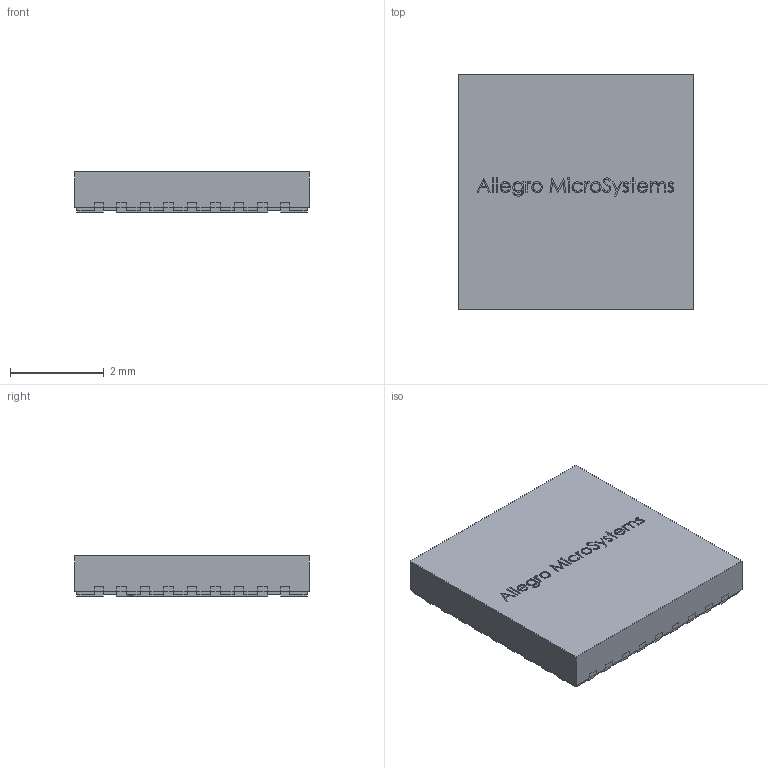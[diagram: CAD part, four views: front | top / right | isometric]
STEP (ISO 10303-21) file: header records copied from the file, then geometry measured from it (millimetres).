
FILE_DESCRIPTION (( 'STEP AP214' ), '1' );
FILE_NAME ('5X5QFN-WettableFlank_Allegro_3DCustDwg.STEP', '2016-06-06T20:53:24', ( '' ), ( '' ), 'SwSTEP 2.0', 'SolidWorks 2014', '' );
FILE_SCHEMA (( 'AUTOMOTIVE_DESIGN' ));
Length unit declared in the file: millimetre
Products named in the file (1): 5X5QFN-WettableFlank_Allegro_3DCustDwg
Bounding box: 5 x 5 x 0.85 mm (x, y, z)
Volume: 21 mm3; surface area: 69 mm2
Topology: 1 solids, 1 shells, 714 faces, 1911 edges, 1226 vertices
Faces by surface type: plane 547, bspline 133, cylinder 34
Entity records: 31252 total; most frequent: CARTESIAN_POINT 10601, ORIENTED_EDGE 3822, DIRECTION 2877, EDGE_CURVE 1911, LINE 1577, VECTOR 1577, VERTEX_POINT 1226, EDGE_LOOP 741
